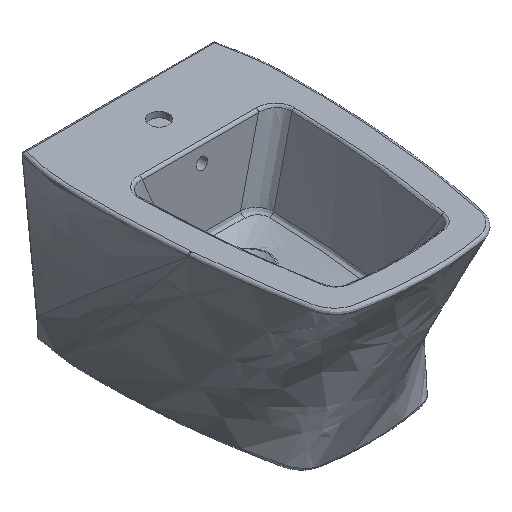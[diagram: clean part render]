
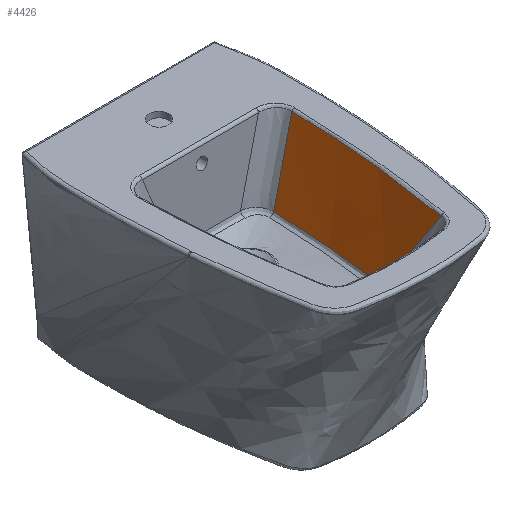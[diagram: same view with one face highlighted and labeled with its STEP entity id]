
A CAD part, isometric view. The second image highlights one B-rep face of the part: STEP entity #4426.
In plain terms, the highlighted free-form (B-spline) face has degree [3, 1] with [4, 2] control points.
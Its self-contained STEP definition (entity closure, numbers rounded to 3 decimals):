
#466 = CARTESIAN_POINT ( 'NONE',  ( 88.84, -216.243, 179.853 ) ) ;
#499 = CARTESIAN_POINT ( 'NONE',  ( 74.122, -390.127, 180.096 ) ) ;
#534 = CARTESIAN_POINT ( 'NONE',  ( 130.721, -305.106, 306.74 ) ) ;
#586 = CARTESIAN_POINT ( 'NONE',  ( 71.838, -407.88, 180.6 ) ) ;
#600 = CARTESIAN_POINT ( 'NONE',  ( 89.575, -193.874, 180.01 ) ) ;
#673 = ORIENTED_EDGE ( 'NONE', *, *, #2881, .T. ) ;
#765 = CARTESIAN_POINT ( 'NONE',  ( 136.808, -179.559, 306.737 ) ) ;
#800 = EDGE_LOOP ( 'NONE', ( #3946, #1648, #673, #4555 ) ) ;
#1208 = CARTESIAN_POINT ( 'NONE',  ( 87.848, -238.602, 179.718 ) ) ;
#1243 = CARTESIAN_POINT ( 'NONE',  ( 73.384, -395.673, 180.136 ) ) ;
#1275 = CARTESIAN_POINT ( 'NONE',  ( 71.838, -407.88, 180.6 ) ) ;
#1285 = CARTESIAN_POINT ( 'NONE',  ( 135.494, -229.827, 306.736 ) ) ;
#1393 = CARTESIAN_POINT ( 'NONE',  ( 138.256, -267.649, 310. ) ) ;
#1648 = ORIENTED_EDGE ( 'NONE', *, *, #3889, .T. ) ;
#1966 = CARTESIAN_POINT ( 'NONE',  ( 86.289, -265.415, 179.603 ) ) ;
#1990 = VERTEX_POINT ( 'NONE', #5313 ) ;
#1999 = CARTESIAN_POINT ( 'NONE',  ( 72.954, -399.002, 180.217 ) ) ;
#2040 = CARTESIAN_POINT ( 'NONE',  ( 136.808, -179.559, 306.737 ) ) ;
#2090 = CARTESIAN_POINT ( 'NONE',  ( 83.771, -431.888, 222.571 ) ) ;
#2145 = CARTESIAN_POINT ( 'NONE',  ( 127.093, -385.048, 310. ) ) ;
#2380 = EDGE_CURVE ( 'NONE', #1990, #7041, #2403, .T. ) ;
#2403 = B_SPLINE_CURVE_WITH_KNOTS ( 'NONE', 3,
 ( #2684, #7165, #3443, #8648, #4189, #9370, #4952, #466, #5705, #1208, #6445, #1966, #7197, #2717, #7949, #3475, #8677, #4223, #9403, #4983, #499, #5739, #1243, #6477, #1999, #7233, #2747, #7976, #3507 ),
 .UNSPECIFIED., .F., .F.,
 ( 4, 2, 1, 2, 2, 2, 2, 2, 2, 2, 2, 2, 2, 2, 4 ),
 ( 0., 0.003, 0.007, 0.013, 0.027, 0.054, 0.081, 0.107, 0.161, 0.188, 0.195, 0.201, 0.205, 0.208, 0.215 ),
 .UNSPECIFIED. ) ;
#2684 = CARTESIAN_POINT ( 'NONE',  ( 89.575, -193.874, 180.01 ) ) ;
#2717 = CARTESIAN_POINT ( 'NONE',  ( 84.365, -292.201, 179.572 ) ) ;
#2747 = CARTESIAN_POINT ( 'NONE',  ( 72.393, -403.441, 180.381 ) ) ;
#2756 = CARTESIAN_POINT ( 'NONE',  ( 107.599, -479.477, 306.767 ) ) ;
#2842 = CARTESIAN_POINT ( 'NONE',  ( 101.646, -467.621, 285.694 ) ) ;
#2881 = EDGE_CURVE ( 'NONE', #4670, #1990, #6892, .T. ) ;
#2897 = CARTESIAN_POINT ( 'NONE',  ( 104.865, -500.862, 310. ) ) ;
#3172 =( BOUNDED_SURFACE ( )  B_SPLINE_SURFACE ( 3, 1, ( 
 ( #5134, #5892 ),
 ( #1393, #6633 ),
 ( #2145, #7383 ),
 ( #2897, #8114 ) ),
 .UNSPECIFIED., .F., .F., .T. ) 
 B_SPLINE_SURFACE_WITH_KNOTS ( ( 4, 4 ),
 ( 2, 2 ),
 ( 0., 1. ),
 ( 0., 1. ),
 .UNSPECIFIED. ) 
 GEOMETRIC_REPRESENTATION_ITEM ( )  RATIONAL_B_SPLINE_SURFACE ( (
 ( 1., 1.),
 ( 0.997, 0.998),
 ( 0.997, 0.998),
 ( 1., 1.) ) ) 
 REPRESENTATION_ITEM ( '' )  SURFACE ( )  );
#3277 = VERTEX_POINT ( 'NONE', #3278 ) ;
#3278 = CARTESIAN_POINT ( 'NONE',  ( 107.599, -479.477, 306.767 ) ) ;
#3443 = CARTESIAN_POINT ( 'NONE',  ( 89.509, -196.111, 179.982 ) ) ;
#3475 = CARTESIAN_POINT ( 'NONE',  ( 80.415, -336.789, 179.726 ) ) ;
#3507 = CARTESIAN_POINT ( 'NONE',  ( 71.838, -407.88, 180.6 ) ) ;
#3580 = CARTESIAN_POINT ( 'NONE',  ( 136.808, -179.559, 306.737 ) ) ;
#3889 = EDGE_CURVE ( 'NONE', #3277, #4670, #5831, .T. ) ;
#3946 = ORIENTED_EDGE ( 'NONE', *, *, #4390, .T. ) ;
#4189 = CARTESIAN_POINT ( 'NONE',  ( 89.346, -201.704, 179.946 ) ) ;
#4223 = CARTESIAN_POINT ( 'NONE',  ( 76.387, -372.367, 179.97 ) ) ;
#4390 = EDGE_CURVE ( 'NONE', #7041, #3277, #8791, .T. ) ;
#4426 = ADVANCED_FACE ( 'NONE', ( #8236 ), #3172, .F. ) ;
#4555 = ORIENTED_EDGE ( 'NONE', *, *, #2380, .T. ) ;
#4670 = VERTEX_POINT ( 'NONE', #765 ) ;
#4952 = CARTESIAN_POINT ( 'NONE',  ( 89.009, -211.77, 179.881 ) ) ;
#4983 = CARTESIAN_POINT ( 'NONE',  ( 74.7, -385.688, 180.065 ) ) ;
#5023 = CARTESIAN_POINT ( 'NONE',  ( 123.407, -380.195, 306.747 ) ) ;
#5078 = CARTESIAN_POINT ( 'NONE',  ( 77.808, -419.921, 201.563 ) ) ;
#5090 = CARTESIAN_POINT ( 'NONE',  ( 105.335, -189.092, 222.245 ) ) ;
#5134 = CARTESIAN_POINT ( 'NONE',  ( 138.256, -149.72, 310. ) ) ;
#5313 = CARTESIAN_POINT ( 'NONE',  ( 89.575, -193.874, 180.01 ) ) ;
#5705 = CARTESIAN_POINT ( 'NONE',  ( 88.284, -229.66, 179.77 ) ) ;
#5739 = CARTESIAN_POINT ( 'NONE',  ( 73.829, -392.346, 180.111 ) ) ;
#5783 = CARTESIAN_POINT ( 'NONE',  ( 132.652, -280.025, 306.738 ) ) ;
#5831 = B_SPLINE_CURVE_WITH_KNOTS ( 'NONE', 3,
 ( #2756, #7984, #5023, #534, #5783, #1285, #6517, #2040 ),
 .UNSPECIFIED., .F., .F.,
 ( 4, 2, 2, 4 ),
 ( 0., 0.151, 0.226, 0.302 ),
 .UNSPECIFIED. ) ;
#5892 = CARTESIAN_POINT ( 'NONE',  ( 88.194, -164.72, 175. ) ) ;
#6445 = CARTESIAN_POINT ( 'NONE',  ( 86.85, -256.481, 179.634 ) ) ;
#6477 = CARTESIAN_POINT ( 'NONE',  ( 73.24, -396.783, 180.158 ) ) ;
#6517 = CARTESIAN_POINT ( 'NONE',  ( 136.406, -204.705, 306.736 ) ) ;
#6633 = CARTESIAN_POINT ( 'NONE',  ( 87.469, -252.412, 175. ) ) ;
#6892 = B_SPLINE_CURVE_WITH_KNOTS ( 'NONE', 3,
 ( #3580, #9500, #5090, #600 ),
 .UNSPECIFIED., .F., .F.,
 ( 4, 4 ),
 ( 0.004, 0.14 ),
 .UNSPECIFIED. ) ;
#7041 = VERTEX_POINT ( 'NONE', #1275 ) ;
#7165 = CARTESIAN_POINT ( 'NONE',  ( 89.538, -194.992, 179.984 ) ) ;
#7197 = CARTESIAN_POINT ( 'NONE',  ( 85.046, -283.275, 179.572 ) ) ;
#7233 = CARTESIAN_POINT ( 'NONE',  ( 72.813, -400.112, 180.255 ) ) ;
#7324 = CARTESIAN_POINT ( 'NONE',  ( 95.69, -455.738, 264.636 ) ) ;
#7383 = CARTESIAN_POINT ( 'NONE',  ( 80.394, -339.821, 175. ) ) ;
#7949 = CARTESIAN_POINT ( 'NONE',  ( 82.139, -318.963, 179.624 ) ) ;
#7976 = CARTESIAN_POINT ( 'NONE',  ( 72.115, -405.66, 180.485 ) ) ;
#7984 = CARTESIAN_POINT ( 'NONE',  ( 116.512, -429.976, 306.756 ) ) ;
#8062 = CARTESIAN_POINT ( 'NONE',  ( 107.599, -479.477, 306.767 ) ) ;
#8114 = CARTESIAN_POINT ( 'NONE',  ( 67.007, -426.488, 175. ) ) ;
#8236 = FACE_OUTER_BOUND ( 'NONE', #800, .T. ) ;
#8648 = CARTESIAN_POINT ( 'NONE',  ( 89.445, -198.348, 179.967 ) ) ;
#8677 = CARTESIAN_POINT ( 'NONE',  ( 77.442, -363.478, 179.906 ) ) ;
#8791 = B_SPLINE_CURVE_WITH_KNOTS ( 'NONE', 3,
 ( #586, #5078, #2090, #7324, #2842, #8062 ),
 .UNSPECIFIED., .F., .F.,
 ( 4, 2, 4 ),
 ( 0.007, 0.081, 0.156 ),
 .UNSPECIFIED. ) ;
#9370 = CARTESIAN_POINT ( 'NONE',  ( 89.238, -205.06, 179.924 ) ) ;
#9403 = CARTESIAN_POINT ( 'NONE',  ( 74.984, -383.469, 180.049 ) ) ;
#9500 = CARTESIAN_POINT ( 'NONE',  ( 121.077, -184.321, 264.489 ) ) ;
